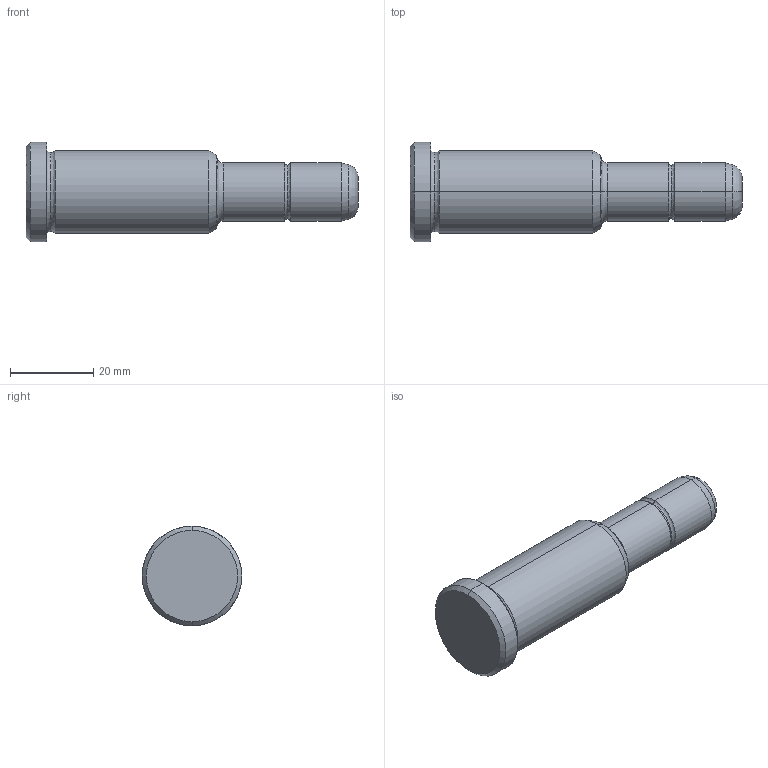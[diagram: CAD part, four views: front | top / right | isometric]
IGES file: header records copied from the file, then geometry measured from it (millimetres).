
Start section: START RECORD GO HERE.
Global section: file name: 351-14X46X80.igs; native system: DASSAULT SYSTEMES CATIA V5 R20 - www.3ds.com; preprocessor: CATIA Version 5 Release 20 ; author: Utente; organization: NB04-ASUS; date: 20210818.124303; units: millimetre
Bounding box: 80 x 24 x 24 mm (x, y, z)
Surface area: 5174.8 mm2 (no closed solid volume)
Topology: 0 solids, 0 shells, 30 faces, 172 edges, 172 vertices
Faces by surface type: revolution 26, plane 4
